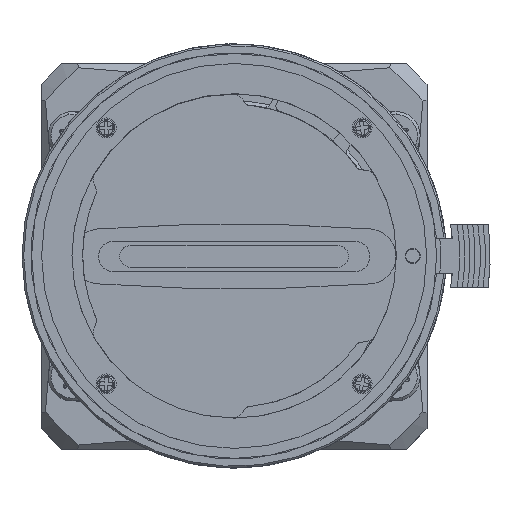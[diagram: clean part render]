
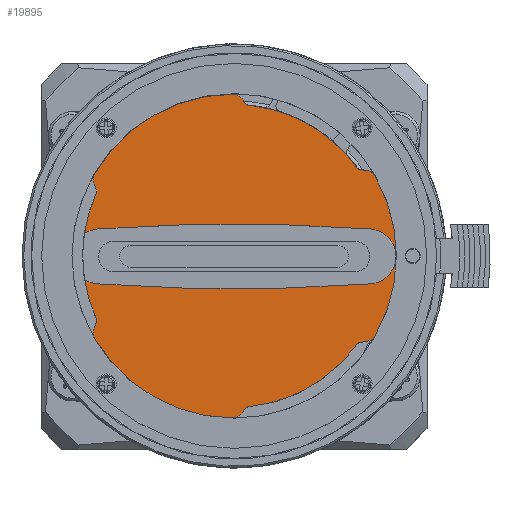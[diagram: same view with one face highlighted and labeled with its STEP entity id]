
A CAD part, top view. The second image highlights one B-rep face of the part: STEP entity #19895.
In plain terms, the highlighted planar face has unit normal (0, 0, 1).
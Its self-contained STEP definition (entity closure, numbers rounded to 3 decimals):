
#959 = CARTESIAN_POINT ( 'NONE',  ( 19.791, 3.989, -1.2 ) ) ;
#1993 = DIRECTION ( 'NONE',  ( 1., 0., 0. ) ) ;
#3746 = CIRCLE ( 'NONE', #78643, 24.5 ) ;
#6545 = ORIENTED_EDGE ( 'NONE', *, *, #69670, .T. ) ;
#11709 = CARTESIAN_POINT ( 'NONE',  ( 19.791, -3.989, -1.2 ) ) ;
#11803 = VERTEX_POINT ( 'NONE', #81926 ) ;
#13874 = VERTEX_POINT ( 'NONE', #90591 ) ;
#14301 = CARTESIAN_POINT ( 'NONE',  ( 19.5, 0., -1.2 ) ) ;
#19679 = CIRCLE ( 'NONE', #56302, 272. ) ;
#19895 = ADVANCED_FACE ( 'NONE', ( #24501, #73708 ), #58108, .T. ) ;
#19926 = EDGE_CURVE ( 'NONE', #55451, #11803, #38240, .T. ) ;
#20355 = CARTESIAN_POINT ( 'NONE',  ( -19.5, 0., -1.2 ) ) ;
#21067 = DIRECTION ( 'NONE',  ( 1., 0., 0. ) ) ;
#24381 = EDGE_CURVE ( 'NONE', #13874, #24943, #61439, .T. ) ;
#24501 = FACE_BOUND ( 'NONE', #70468, .T. ) ;
#24943 = VERTEX_POINT ( 'NONE', #71480 ) ;
#26346 = VERTEX_POINT ( 'NONE', #959 ) ;
#27030 = CARTESIAN_POINT ( 'NONE',  ( 0., 0., -1.2 ) ) ;
#27724 = CIRCLE ( 'NONE', #57089, 4. ) ;
#28072 = DIRECTION ( 'NONE',  ( 1., 0., 0. ) ) ;
#29412 = CARTESIAN_POINT ( 'NONE',  ( 0., 267.29, -1.2 ) ) ;
#30226 = CARTESIAN_POINT ( 'NONE',  ( -19.791, 3.989, -1.2 ) ) ;
#34027 = EDGE_CURVE ( 'NONE', #11803, #26346, #34648, .T. ) ;
#34648 = CIRCLE ( 'NONE', #90411, 4. ) ;
#35112 = CARTESIAN_POINT ( 'NONE',  ( 0., -267.29, -1.2 ) ) ;
#36793 = DIRECTION ( 'NONE',  ( 1., 0., 0. ) ) ;
#36984 = DIRECTION ( 'NONE',  ( 0., 0., 1. ) ) ;
#38240 = CIRCLE ( 'NONE', #42614, 4. ) ;
#41556 = DIRECTION ( 'NONE',  ( 1., 0., 0. ) ) ;
#41826 = EDGE_LOOP ( 'NONE', ( #73464, #6545 ) ) ;
#42614 = AXIS2_PLACEMENT_3D ( 'NONE', #14301, #62057, #91020 ) ;
#43875 = CARTESIAN_POINT ( 'NONE',  ( 0., 0., -1.2 ) ) ;
#44341 = CARTESIAN_POINT ( 'NONE',  ( -19.791, -3.989, -1.2 ) ) ;
#45468 = CARTESIAN_POINT ( 'NONE',  ( 19.5, 0., -1.2 ) ) ;
#46799 = AXIS2_PLACEMENT_3D ( 'NONE', #27030, #75300, #21067 ) ;
#48344 = DIRECTION ( 'NONE',  ( 0., 0., 1. ) ) ;
#48492 = AXIS2_PLACEMENT_3D ( 'NONE', #43875, #36984, #1993 ) ;
#53266 = DIRECTION ( 'NONE',  ( 1., 0., 0. ) ) ;
#53499 = AXIS2_PLACEMENT_3D ( 'NONE', #35112, #84270, #41556 ) ;
#54032 = ORIENTED_EDGE ( 'NONE', *, *, #72721, .F. ) ;
#55115 = ORIENTED_EDGE ( 'NONE', *, *, #19926, .F. ) ;
#55451 = VERTEX_POINT ( 'NONE', #11709 ) ;
#55792 = EDGE_CURVE ( 'NONE', #80272, #55451, #19679, .T. ) ;
#56302 = AXIS2_PLACEMENT_3D ( 'NONE', #29412, #63430, #36793 ) ;
#56389 = EDGE_CURVE ( 'NONE', #26346, #81392, #59423, .T. ) ;
#57089 = AXIS2_PLACEMENT_3D ( 'NONE', #20355, #48344, #28072 ) ;
#58108 = PLANE ( 'NONE',  #48492 ) ;
#59423 = CIRCLE ( 'NONE', #53499, 272. ) ;
#61439 = CIRCLE ( 'NONE', #46799, 24.5 ) ;
#62057 = DIRECTION ( 'NONE',  ( 0., 0., 1. ) ) ;
#63430 = DIRECTION ( 'NONE',  ( 0., 0., 1. ) ) ;
#65036 = DIRECTION ( 'NONE',  ( 0., 0., 1. ) ) ;
#69670 = EDGE_CURVE ( 'NONE', #24943, #13874, #3746, .T. ) ;
#70468 = EDGE_LOOP ( 'NONE', ( #55115, #90894, #54032, #78011, #72874 ) ) ;
#71480 = CARTESIAN_POINT ( 'NONE',  ( -24.5, 0., -1.2 ) ) ;
#72721 = EDGE_CURVE ( 'NONE', #81392, #80272, #27724, .T. ) ;
#72849 = DIRECTION ( 'NONE',  ( 1., 0., 0. ) ) ;
#72874 = ORIENTED_EDGE ( 'NONE', *, *, #34027, .F. ) ;
#73464 = ORIENTED_EDGE ( 'NONE', *, *, #24381, .T. ) ;
#73511 = DIRECTION ( 'NONE',  ( 0., 0., 1. ) ) ;
#73708 = FACE_OUTER_BOUND ( 'NONE', #41826, .T. ) ;
#73761 = CARTESIAN_POINT ( 'NONE',  ( 0., 0., -1.2 ) ) ;
#75300 = DIRECTION ( 'NONE',  ( 0., 0., 1. ) ) ;
#78011 = ORIENTED_EDGE ( 'NONE', *, *, #56389, .F. ) ;
#78643 = AXIS2_PLACEMENT_3D ( 'NONE', #73761, #65036, #72849 ) ;
#80272 = VERTEX_POINT ( 'NONE', #44341 ) ;
#81392 = VERTEX_POINT ( 'NONE', #30226 ) ;
#81926 = CARTESIAN_POINT ( 'NONE',  ( 23.5, 0., -1.2 ) ) ;
#84270 = DIRECTION ( 'NONE',  ( 0., 0., 1. ) ) ;
#90411 = AXIS2_PLACEMENT_3D ( 'NONE', #45468, #73511, #53266 ) ;
#90591 = CARTESIAN_POINT ( 'NONE',  ( 24.5, 0., -1.2 ) ) ;
#90894 = ORIENTED_EDGE ( 'NONE', *, *, #55792, .F. ) ;
#91020 = DIRECTION ( 'NONE',  ( 1., 0., 0. ) ) ;
